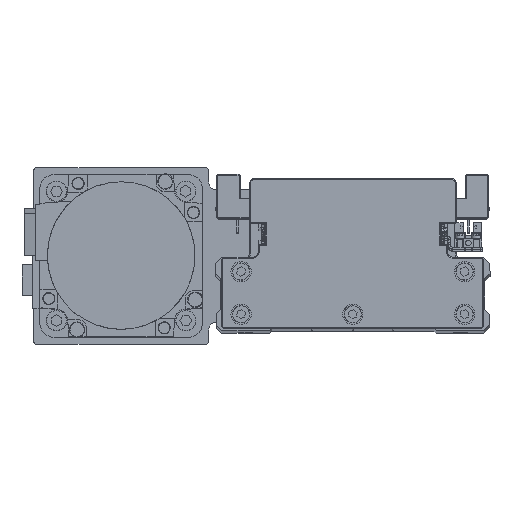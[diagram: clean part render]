
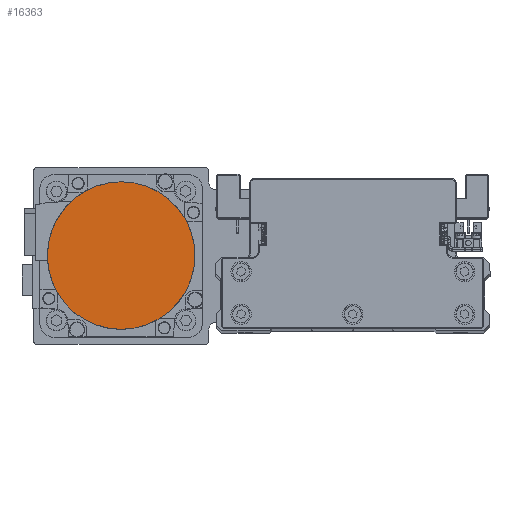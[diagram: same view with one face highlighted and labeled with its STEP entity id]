
A CAD part, top view. The second image highlights one B-rep face of the part: STEP entity #16363.
In plain terms, the highlighted planar face has unit normal (0, 0, 1) as drawn and (0, 0, -1) by its records, which use the part's own axes.
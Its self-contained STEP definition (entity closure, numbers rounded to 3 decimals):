
#654 = DIRECTION ( 'NONE',  ( 0., -1., 0. ) ) ;
#1562 = DIRECTION ( 'NONE',  ( 0., 0., 1. ) ) ;
#4692 = CARTESIAN_POINT ( 'NONE',  ( 0., -36.3, -122.2 ) ) ;
#8371 = EDGE_CURVE ( 'NONE', #39017, #19807, #13075, .T. ) ;
#10369 = CIRCLE ( 'NONE', #32990, 36.3 ) ;
#11895 = DIRECTION ( 'NONE',  ( 0., 0., 1. ) ) ;
#13075 = CIRCLE ( 'NONE', #18267, 36.3 ) ;
#13900 = DIRECTION ( 'NONE',  ( 0., 1., 0. ) ) ;
#14941 = FACE_OUTER_BOUND ( 'NONE', #20018, .T. ) ;
#16051 = CARTESIAN_POINT ( 'NONE',  ( 0., 0., -122.2 ) ) ;
#16363 = ADVANCED_FACE ( 'NONE', ( #14941 ), #27291, .F. ) ;
#16942 = CARTESIAN_POINT ( 'NONE',  ( 0., 36.3, -122.2 ) ) ;
#18267 = AXIS2_PLACEMENT_3D ( 'NONE', #16051, #28403, #654 ) ;
#19807 = VERTEX_POINT ( 'NONE', #16942 ) ;
#19811 = EDGE_CURVE ( 'NONE', #19807, #39017, #10369, .T. ) ;
#20018 = EDGE_LOOP ( 'NONE', ( #31905, #31066 ) ) ;
#24259 = DIRECTION ( 'NONE',  ( 1., 0., 0. ) ) ;
#27291 = PLANE ( 'NONE',  #27967 ) ;
#27967 = AXIS2_PLACEMENT_3D ( 'NONE', #39613, #11895, #24259 ) ;
#28403 = DIRECTION ( 'NONE',  ( 0., 0., 1. ) ) ;
#29293 = CARTESIAN_POINT ( 'NONE',  ( 0., 0., -122.2 ) ) ;
#31066 = ORIENTED_EDGE ( 'NONE', *, *, #8371, .F. ) ;
#31905 = ORIENTED_EDGE ( 'NONE', *, *, #19811, .F. ) ;
#32990 = AXIS2_PLACEMENT_3D ( 'NONE', #29293, #1562, #13900 ) ;
#39017 = VERTEX_POINT ( 'NONE', #4692 ) ;
#39613 = CARTESIAN_POINT ( 'NONE',  ( 0., 0., -122.2 ) ) ;
